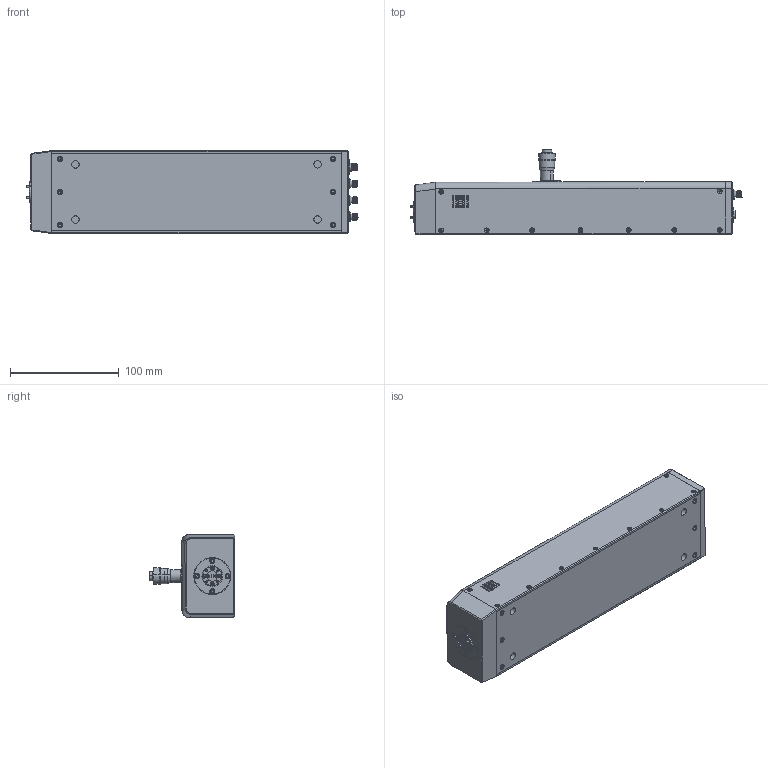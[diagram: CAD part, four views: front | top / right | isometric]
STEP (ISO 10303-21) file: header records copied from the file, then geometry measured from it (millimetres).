
FILE_DESCRIPTION (( 'STEP AP214' ), '1' );
FILE_NAME ('TO-SE-A-M_Mountable, Defeatured.STEP', '2023-06-29T00:08:05', ( '' ), ( '' ), 'SwSTEP 2.0', 'SolidWorks 2021', '' );
FILE_SCHEMA (( 'AUTOMOTIVE_DESIGN' ));
Length unit declared in the file: inch
Products named in the file (1): TO-SE-A-M_Mountable, Defeatured
Bounding box: 305.75 x 78.87 x 76.39 mm (x, y, z)
Volume: 1066150.8 mm3; surface area: 148623.3 mm2
Topology: 33 solids, 50 shells, 1951 faces, 4687 edges, 2927 vertices
Faces by surface type: plane 828, cylinder 658, cone 434, bspline 23, torus 8
Entity records: 76025 total; most frequent: CARTESIAN_POINT 21213, DIRECTION 9316, ORIENTED_EDGE 9182, EDGE_CURVE 4591, AXIS2_PLACEMENT_3D 3606, VERTEX_POINT 2927, EDGE_LOOP 2208, VECTOR 2104
